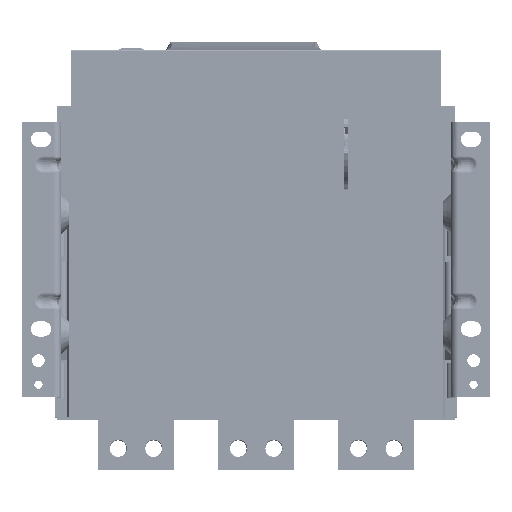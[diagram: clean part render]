
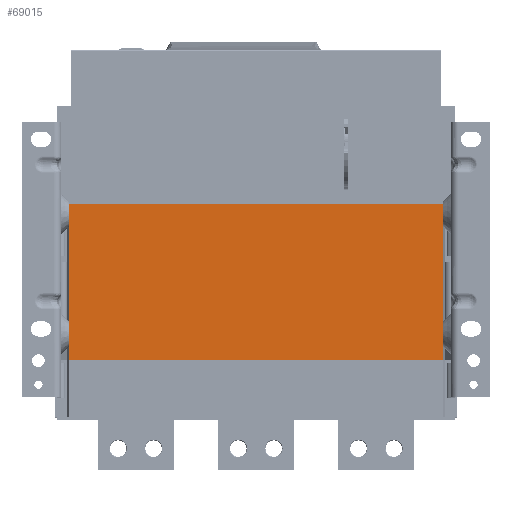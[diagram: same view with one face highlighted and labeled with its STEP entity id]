
A CAD part, top view. The second image highlights one B-rep face of the part: STEP entity #69015.
In plain terms, the highlighted planar face has unit normal (0, 0, 1).
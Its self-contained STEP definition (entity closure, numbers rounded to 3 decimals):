
#36372=DIRECTION('',(1.,0.,0.));
#36373=VECTOR('',#36372,296.);
#36374=CARTESIAN_POINT('',(-148.,123.,150.));
#36375=LINE('',#36374,#36373);
#38606=DIRECTION('',(1.,0.,0.));
#38607=VECTOR('',#38606,296.);
#38608=CARTESIAN_POINT('',(-148.,0.,150.));
#38609=LINE('',#38608,#38607);
#50693=DIRECTION('',(0.,1.,0.));
#50694=VECTOR('',#50693,123.);
#50695=CARTESIAN_POINT('',(148.,0.,150.));
#50696=LINE('',#50695,#50694);
#51231=DIRECTION('',(0.,1.,0.));
#51232=VECTOR('',#51231,123.);
#51233=CARTESIAN_POINT('',(-148.,0.,150.));
#51234=LINE('',#51233,#51232);
#53834=CARTESIAN_POINT('',(-148.,0.,150.));
#53835=VERTEX_POINT('',#53834);
#53836=CARTESIAN_POINT('',(148.,0.,150.));
#53837=VERTEX_POINT('',#53836);
#53858=CARTESIAN_POINT('',(-148.,123.,150.));
#53859=CARTESIAN_POINT('',(148.,123.,150.));
#53860=VERTEX_POINT('',#53858);
#53861=VERTEX_POINT('',#53859);
#69004=CARTESIAN_POINT('',(-148.,0.,150.));
#69005=DIRECTION('',(0.,0.,1.));
#69006=DIRECTION('',(1.,0.,0.));
#69007=AXIS2_PLACEMENT_3D('',#69004,#69005,#69006);
#69008=PLANE('',#69007);
#69009=ORIENTED_EDGE('',*,*,#58369,.F.);
#69010=ORIENTED_EDGE('',*,*,#62556,.T.);
#69011=ORIENTED_EDGE('',*,*,#57202,.T.);
#69012=ORIENTED_EDGE('',*,*,#68509,.F.);
#69013=EDGE_LOOP('',(#69009,#69010,#69011,#69012));
#69014=FACE_OUTER_BOUND('',#69013,.F.);
#69015=ADVANCED_FACE('',(#69014),#69008,.T.);
#57202=EDGE_CURVE('',#53860,#53861,#36375,.T.);
#58369=EDGE_CURVE('',#53835,#53837,#38609,.T.);
#62556=EDGE_CURVE('',#53835,#53860,#51234,.T.);
#68509=EDGE_CURVE('',#53837,#53861,#50696,.T.);
